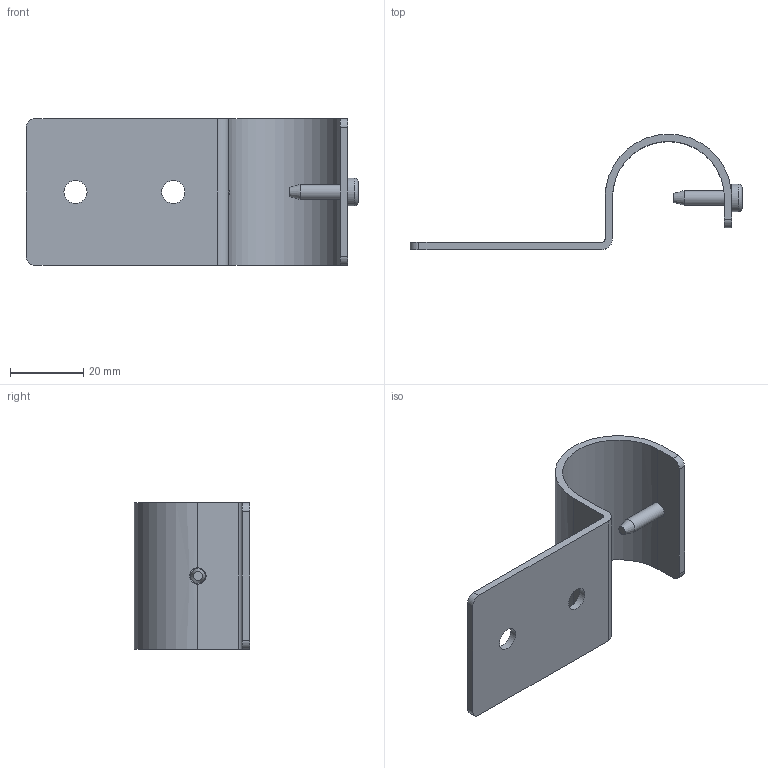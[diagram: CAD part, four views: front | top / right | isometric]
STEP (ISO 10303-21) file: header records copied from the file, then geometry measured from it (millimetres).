
FILE_DESCRIPTION(/* description */ ('STEP AP214'),/* implementation_level */ '2;1');
FILE_NAME(/* name */ '099RV30TW',/* time_stamp */ '2023-08-29T08:34:24+02:00',/* author */ ('License CC BY-ND 4.0'),/* organization */ ('CADENAS'),/* preprocessor_version */ 'ST-DEVELOPER v19.3',/* originating_system */ 'PARTsolutions',/* authorisation */ ' ');
FILE_SCHEMA (('AUTOMOTIVE_DESIGN {1 0 10303 214 3 1 1}'));
Length unit declared in the file: millimetre
Products named in the file (3): 099RV30TW; 099RV30TW_2; 099RV30TW_1
Assembly tree (2 placements, depth 2):
  099RV30TW
    099RV30TW_2
    099RV30TW_1
Bounding box: 90.5 x 31.5 x 40 mm (x, y, z)
Volume: 10151.8 mm3; surface area: 11029.9 mm2
Topology: 2 solids, 2 shells, 58 faces, 174 edges, 112 vertices
Faces by surface type: plane 30, cylinder 26, torus 1, cone 1
Full cylindrical faces by diameter (mm): 4 x1, 4.5 x2, 6.3 x2, 7.5 x1
Entity records: 2037 total; most frequent: CARTESIAN_POINT 361, DIRECTION 348, ORIENTED_EDGE 330, EDGE_CURVE 165, AXIS2_PLACEMENT_3D 126, VERTEX_POINT 111, LINE 96, VECTOR 96
